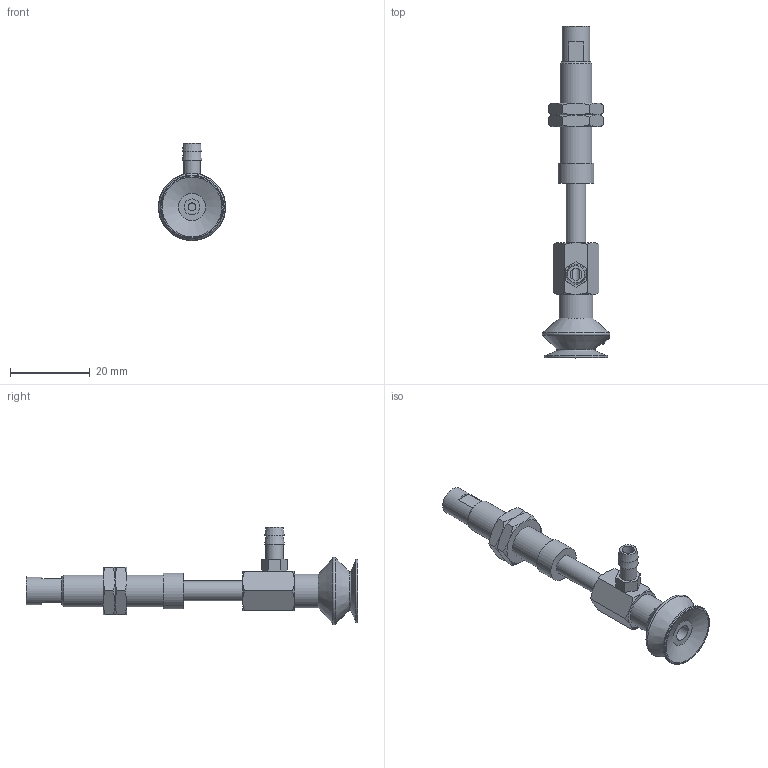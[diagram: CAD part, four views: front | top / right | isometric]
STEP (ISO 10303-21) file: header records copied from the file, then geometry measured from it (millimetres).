
FILE_DESCRIPTION(('STEP AP203'),'1');
FILE_NAME('-T.stp','2025-04-02T00:25:29',(' '),(' '),'Spatial InterOp 3D',' ',' ');
FILE_SCHEMA(('CONFIG_CONTROL_DESIGN'));
Length unit declared in the file: millimetre
Products named in the file (9): BNABPBYS-15A-15-※-T; CONNECTOR-15A-15-PB; Nut-15A-S-PB; NAPBTS-15A-15--F; NAPBTS-15A-15--M; BPBG-15A-※; __27; BPBG-15A; T
Assembly tree (9 placements, depth 3):
  BNABPBYS-15A-15-※-T
    CONNECTOR-15A-15-PB
    Nut-15A-S-PB  x2
    NAPBTS-15A-15--F
    NAPBTS-15A-15--M
    BPBG-15A-※
      __27
      BPBG-15A
    T
Bounding box: 17 x 83.5 x 24.5 mm (x, y, z)
Volume: 5205 mm3; surface area: 5963.9 mm2
Topology: 8 solids, 8 shells, 162 faces, 343 edges, 211 vertices
Faces by surface type: plane 64, cone 58, cylinder 21, torus 11, bspline 8
Full cylindrical faces by diameter (mm): 2 x1, 3 x1, 4 x3, 4.134 x2, 4.3 x1, 5 x4, 6 x2, 7 x1, 7.188 x2, 8 x1, 8.5 x1, 9 x1, 16 x1
Entity records: 5207 total; most frequent: CARTESIAN_POINT 2086, DIRECTION 549, ORIENTED_EDGE 472, AXIS2_PLACEMENT_3D 242, EDGE_CURVE 236, EDGE_LOOP 211, VERTEX_POINT 171, FACE_OUTER_BOUND 170
